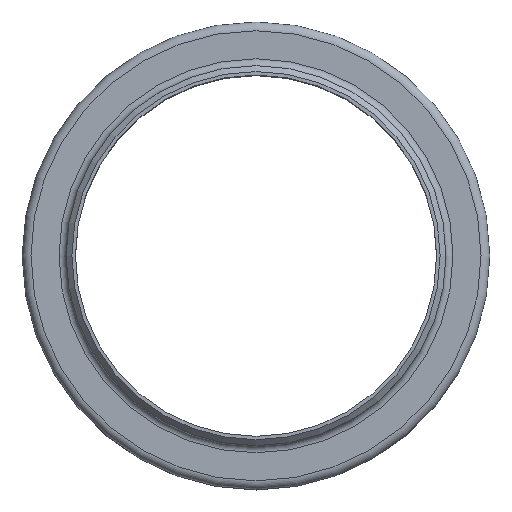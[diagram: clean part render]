
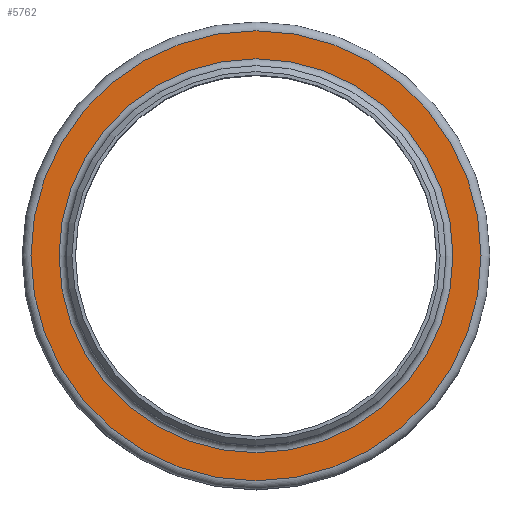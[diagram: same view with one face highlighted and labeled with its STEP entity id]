
A CAD part, top view. The second image highlights one B-rep face of the part: STEP entity #5762.
In plain terms, the highlighted planar face has unit normal (0, 0, 1).
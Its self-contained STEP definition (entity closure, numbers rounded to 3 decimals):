
#196=FACE_BOUND('',#1043,.T.);
#321=PLANE('',#6169);
#693=FACE_OUTER_BOUND('',#1042,.T.);
#1042=EDGE_LOOP('',(#4823));
#1043=EDGE_LOOP('',(#4824));
#1282=CIRCLE('',#6164,168.5);
#1286=CIRCLE('',#6170,192.5);
#2666=VERTEX_POINT('',#13593);
#2669=VERTEX_POINT('',#13604);
#3402=EDGE_CURVE('',#2666,#2666,#1282,.T.);
#3407=EDGE_CURVE('',#2669,#2669,#1286,.T.);
#4823=ORIENTED_EDGE('',*,*,#3407,.F.);
#4824=ORIENTED_EDGE('',*,*,#3402,.F.);
#5762=ADVANCED_FACE('',(#693,#196),#321,.F.);
#6164=AXIS2_PLACEMENT_3D('',#13595,#7288,#7289);
#6169=AXIS2_PLACEMENT_3D('',#13603,#7299,#7300);
#6170=AXIS2_PLACEMENT_3D('',#13605,#7301,#7302);
#7288=DIRECTION('center_axis',(0.,0.,1.));
#7289=DIRECTION('ref_axis',(0.,-1.,0.));
#7299=DIRECTION('center_axis',(0.,0.,-1.));
#7300=DIRECTION('ref_axis',(-1.,0.,0.));
#7301=DIRECTION('center_axis',(0.,0.,-1.));
#7302=DIRECTION('ref_axis',(1.,0.,0.));
#13593=CARTESIAN_POINT('',(168.5,0.,105.5));
#13595=CARTESIAN_POINT('Origin',(0.,0.,105.5));
#13603=CARTESIAN_POINT('Origin',(0.,162.5,105.5));
#13604=CARTESIAN_POINT('',(192.5,0.,105.5));
#13605=CARTESIAN_POINT('Origin',(0.,0.,105.5));
